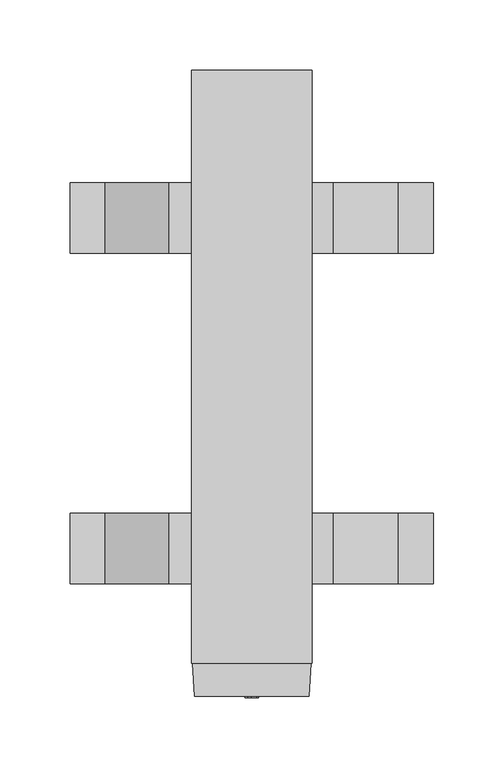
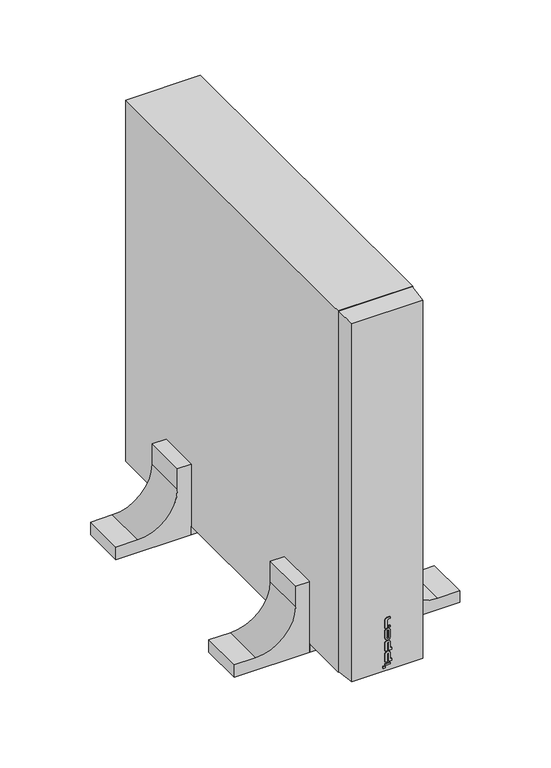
"""IFC4 building model written with IfcOpenShell, lengths in millimetres: proxy geometry, IPPON_EBM_Innova RT II_1000-1500_2000-3000ВА : EBM INNOVA RT II 1000/1500 ВА."""

from ifc_helpers import new_model, si_unit, point, frame, frame_2d, origin, origin_with_axes, place, context, project, spatial, polyline, circle_curve, trimmed, segment, composite_curve, outline, extrude, faceted_brep, source, transform, mapped, element, save


def electrical_equipment_fd047484(model_context):
    return source(origin(), model_context, "Body", "SolidModel", [
        extrude(outline(polyline([(-2.7362511, -1.0), (-5.0362511, -1.0), (-5.0362511, 0.0), (-2.7362511, 0.0), (-2.7362511, -1.0)])), frame((0.0, 0.0, 16.0), z_axis=(0.0, 0.0, 1.0), x_axis=(1.0, 0.0, 0.0)), (0.0, 0.0, 1.0), 2.0),
        extrude(outline(polyline([(3.2637489, -1.0), (1.0369258, -1.0), (1.0369258, 0.0), (3.2637489, 0.0), (3.2637489, -1.0)])), frame((0.0, 0.0, 63.7753606), z_axis=(0.0, 0.0, 1.0), x_axis=(1.0, 0.0, 0.0)), (0.0, 0.0, 1.0), 2.0),
        extrude(outline(polyline([(3.2637489, -1.0), (-2.7362511, -1.0), (-2.7362511, 0.0), (3.2637489, 0.0), (3.2637489, -1.0)])), frame((0.0, 0.0, 18.6884808), z_axis=(0.0, 0.0, 1.0), x_axis=(1.0, 0.0, 0.0)), (0.0, 0.0, 1.0), 2.0447674),
        extrude(outline(composite_curve([segment(polyline([(22.9477024, -0.4738111), (32.1794597, -0.4738111)]), True, "CONTINUOUS"), segment(trimmed(circle_curve(frame_2d((32.1794597, 0.3826682)), 0.8564793), [point((32.1794597, -0.4738111))], [point((32.1794597, 1.2391475))], True, "CARTESIAN"), True, "CONTINUOUS"), segment(polyline([(32.1794597, 1.2391475), (22.9477024, 1.2391475), (22.9477024, 4.7296521), (24.9477024, 4.7296521), (24.9477024, 3.2637489), (32.0232097, 3.2637489)]), True, "CONTINUOUS"), segment(trimmed(circle_curve(frame_2d((32.0232097, 0.2637489)), 3.0), [point((32.0232097, 3.2637489))], [point((32.0232097, -2.7362511))], False, "CARTESIAN"), True, "CONTINUOUS"), segment(polyline([(32.0232097, -2.7362511), (22.9477024, -2.7362511), (22.9477024, -0.4738111)]), True, "CONTINUOUS")], self_intersect=False)), frame((0.0, -1.0, 0.0), z_axis=(0.0, 1.0, 0.0), x_axis=(0.0, 0.0, 1.0)), (0.0, 0.0, 1.0), 1.0),
        extrude(outline(composite_curve([segment(polyline([(36.1547042, -0.4738111), (45.3864614, -0.4738111)]), True, "CONTINUOUS"), segment(trimmed(circle_curve(frame_2d((45.3864614, 0.3826682)), 0.8564793), [point((45.3864614, -0.4738111))], [point((45.3864614, 1.2391475))], True, "CARTESIAN"), True, "CONTINUOUS"), segment(polyline([(45.3864614, 1.2391475), (36.1547042, 1.2391475), (36.1547042, 4.7296521), (38.1547042, 4.7296521), (38.1547042, 3.2637489), (45.2302114, 3.2637489)]), True, "CONTINUOUS"), segment(trimmed(circle_curve(frame_2d((45.2302114, 0.2637489)), 3.0), [point((45.2302114, 3.2637489))], [point((45.2302114, -2.7362511))], False, "CARTESIAN"), True, "CONTINUOUS"), segment(polyline([(45.2302114, -2.7362511), (36.1547042, -2.7362511), (36.1547042, -0.4738111)]), True, "CONTINUOUS")], self_intersect=False)), frame((0.0, -1.0, 0.0), z_axis=(0.0, 1.0, 0.0), x_axis=(0.0, 0.0, 1.0)), (0.0, 0.0, 1.0), 1.0),
        extrude(outline(composite_curve([segment(trimmed(circle_curve(frame_2d((59.7304703, 0.2637489)), 3.0), [point((59.7304703, 3.2637489))], [point((59.7304703, -2.7362511))], False, "CARTESIAN"), True, "CONTINUOUS"), segment(polyline([(59.7304703, -2.7362511), (52.1304703, -2.7362511)]), True, "CONTINUOUS"), segment(trimmed(circle_curve(frame_2d((52.1304703, 0.2637489)), 3.0), [point((52.1304703, -2.7362511))], [point((52.1304703, 3.2637489))], False, "CARTESIAN"), True, "CONTINUOUS"), segment(polyline([(52.1304703, 3.2637489), (59.7304703, 3.2637489)]), True, "CONTINUOUS")], self_intersect=False), holes=[composite_curve([segment(polyline([(59.8867203, 1.2391475), (51.9742203, 1.2391475)]), True, "CONTINUOUS"), segment(trimmed(circle_curve(frame_2d((51.9742203, 0.3826682)), 0.8564793), [point((51.9742203, 1.2391475))], [point((51.9742203, -0.4738111))], True, "CARTESIAN"), True, "CONTINUOUS"), segment(polyline([(51.9742203, -0.4738111), (59.8867203, -0.4738111)]), True, "CONTINUOUS"), segment(trimmed(circle_curve(frame_2d((59.8867203, 0.3826682)), 0.8564793), [point((59.8867203, -0.4738111))], [point((59.8867203, 1.2391475))], True, "CARTESIAN"), True, "CONTINUOUS")], self_intersect=False)]), frame((0.0, -1.0, 0.0), z_axis=(0.0, 1.0, 0.0), x_axis=(0.0, 0.0, 1.0)), (0.0, 0.0, 1.0), 1.0),
        extrude(outline(composite_curve([segment(polyline([(63.7753606, -0.4738111), (73.0071179, -0.4738111)]), True, "CONTINUOUS"), segment(trimmed(circle_curve(frame_2d((73.0071179, 0.3826682)), 0.8564793), [point((73.0071179, -0.4738111))], [point((73.8635972, 0.3826682))], True, "CARTESIAN"), True, "CONTINUOUS"), segment(polyline([(73.8635972, 0.3826682), (73.8635972, 3.2637489), (75.8036054, 3.2637489), (75.8036054, -0.2666676)]), True, "CONTINUOUS"), segment(trimmed(circle_curve(frame_2d((72.8508679, 0.2637489)), 3.0), [point((75.8036054, -0.2666676))], [point((72.8508679, -2.7362511))], False, "CARTESIAN"), True, "CONTINUOUS"), segment(polyline([(72.8508679, -2.7362511), (63.7753606, -2.7362511), (63.7753606, -0.4738111)]), True, "CONTINUOUS")], self_intersect=False)), frame((0.0, -1.0, 0.0), z_axis=(0.0, 1.0, 0.0), x_axis=(0.0, 0.0, 1.0)), (0.0, 0.0, 1.0), 1.0),
        extrude(outline(polyline([(-42.75, 365.0), (42.75, 365.0), (42.75, 315.0), (-42.75, 315.0), (-42.75, 365.0)])), origin_with_axes(), (0.0, 0.0, 1.0), 10.0),
        extrude(outline(polyline([(42.75, 80.0), (-42.75, 80.0), (-42.75, 130.0), (42.75, 130.0), (42.75, 80.0)])), origin_with_axes(), (0.0, 0.0, 1.0), 10.0),
        extrude(outline(composite_curve([segment(polyline([(0.0, -42.75), (85.5, -42.75), (85.5, -58.75), (60.5, -58.75)]), True, "CONTINUOUS"), segment(trimmed(circle_curve(frame_2d((60.5, -104.25)), 45.5), [point((60.5, -58.75))], [point((15.0, -104.25))], True, "CARTESIAN"), True, "CONTINUOUS"), segment(polyline([(15.0, -104.25), (15.0, -129.25), (0.0, -129.25), (0.0, -42.75)]), True, "CONTINUOUS")], self_intersect=False)), frame((0.0, 315.0, 0.0), z_axis=(0.0, 1.0, 0.0), x_axis=(0.0, 0.0, 1.0)), (0.0, 0.0, 1.0), 50.0),
        extrude(outline(composite_curve([segment(polyline([(0.0, -42.75), (85.5, -42.75), (85.5, -58.75), (60.5, -58.75)]), True, "CONTINUOUS"), segment(trimmed(circle_curve(frame_2d((60.5, -104.25)), 45.5), [point((60.5, -58.75))], [point((15.0, -104.25))], True, "CARTESIAN"), True, "CONTINUOUS"), segment(polyline([(15.0, -104.25), (15.0, -129.25), (0.0, -129.25), (0.0, -42.75)]), True, "CONTINUOUS")], self_intersect=False)), frame((0.0, 80.0, 0.0), z_axis=(0.0, 1.0, 0.0), x_axis=(0.0, 0.0, 1.0)), (0.0, 0.0, 1.0), 50.0),
        extrude(outline(composite_curve([segment(polyline([(0.0, 129.25), (14.0, 129.25), (14.0, 104.25)]), True, "CONTINUOUS"), segment(trimmed(circle_curve(frame_2d((60.5, 104.25)), 46.5), [point((14.0, 104.25))], [point((60.5, 57.75))], True, "CARTESIAN"), True, "CONTINUOUS"), segment(polyline([(60.5, 57.75), (85.5, 57.75), (85.5, 42.75), (0.0, 42.75), (0.0, 129.25)]), True, "CONTINUOUS")], self_intersect=False)), frame((0.0, 315.0, 0.0), z_axis=(0.0, 1.0, 0.0), x_axis=(0.0, 0.0, 1.0)), (0.0, 0.0, 1.0), 50.0),
        extrude(outline(composite_curve([segment(polyline([(0.0, 42.75), (0.0, 129.25), (14.0, 129.25), (14.0, 104.25)]), True, "CONTINUOUS"), segment(trimmed(circle_curve(frame_2d((60.5, 104.25)), 46.5), [point((14.0, 104.25))], [point((60.5, 57.75))], True, "CARTESIAN"), True, "CONTINUOUS"), segment(polyline([(60.5, 57.75), (85.5, 57.75), (85.5, 42.75), (0.0, 42.75)]), True, "CONTINUOUS")], self_intersect=False)), frame((0.0, 80.0, 0.0), z_axis=(0.0, 1.0, 0.0), x_axis=(0.0, 0.0, 1.0)), (0.0, 0.0, 1.0), 50.0),
        faceted_brep([(40.75, 0.0, 12.0), (40.75, 0.0, 446.0), (-40.75, 0.0, 446.0), (-40.75, 0.0, 12.0), (42.1748599, 23.5101876, 10.5751401), (42.1748599, 23.5101876, 447.4248599), (-42.1748599, 23.5101876, 447.4248599), (-42.1748599, 23.5101876, 10.5751401), (42.75, 445.0, 448.0), (42.75, 445.0, 10.0), (-42.75, 445.0, 10.0), (-42.75, 445.0, 448.0), (42.75, 23.5101876, 448.0), (-42.75, 23.5101876, 448.0), (-42.75, 23.5101876, 10.0), (42.75, 23.5101876, 10.0), (-42.75, 33.0, 448.0), (42.75, 33.0, 448.0), (-42.75, 33.0, 10.0), (42.75, 33.0, 10.0)], [[[0, 1, 2, 3]], [[1, 0, 4, 5]], [[2, 1, 5, 6]], [[3, 2, 6, 7]], [[0, 3, 7, 4]], [[8, 9, 10, 11]], [[12, 13, 14, 15], [5, 4, 7, 6]], [[8, 11, 16, 13, 12, 17]], [[11, 10, 18, 14, 13, 16]], [[10, 9, 19, 15, 14, 18]], [[9, 8, 17, 12, 15, 19]]]),
    ])


if __name__ == "__main__":
    model = new_model("IFC4")
    model_context = context("Model", 3, world=origin())
    ifc_project = project(units=[si_unit("LENGTHUNIT", "METRE", prefix="MILLI")], contexts=[model_context])
    site = spatial("IfcSite", under=ifc_project)
    building = spatial("IfcBuilding", under=site)
    placement = place(None, origin())
    electrical_equipment_shape = electrical_equipment_fd047484(model_context)
    element("IfcBuildingElementProxy", 1, Name="IPPON_EBM_Innova RT II_1000-1500_2000-3000ВА : EBM INNOVA RT II 1000/1500 ВА", ObjectType="IPPON_EBM_Innova RT II_1000-1500_2000-3000ВА : EBM INNOVA RT II 1000/1500 ВА", at=placement, inside=building, context=model_context, shape_type="MappedRepresentation", body=[
        mapped(electrical_equipment_shape, transform((0.0, 0.0, 0.0), x_axis=(1.0, 0.0, 0.0), y_axis=(0.0, 1.0, 0.0), z_axis=(0.0, 0.0, 1.0))),
    ])
    save(model, "model.ifc")
